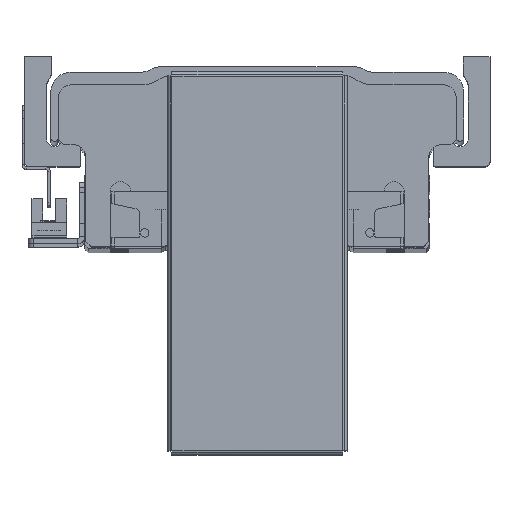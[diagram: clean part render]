
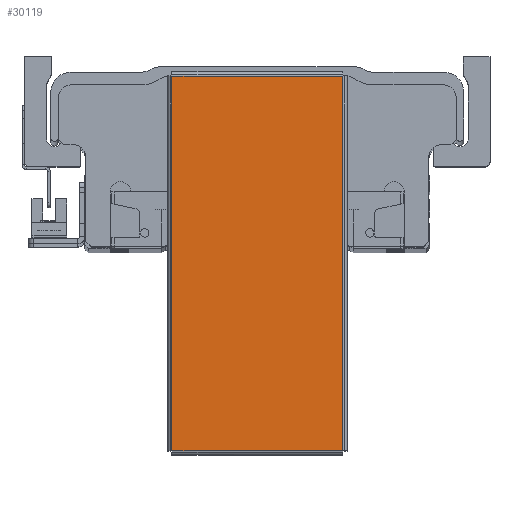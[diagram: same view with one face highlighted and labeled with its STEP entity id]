
A CAD part, top view. The second image highlights one B-rep face of the part: STEP entity #30119.
In plain terms, the highlighted planar face has unit normal (0, 0, 1) as drawn and (0, -1, 0) by its records, which use the part's own axes.
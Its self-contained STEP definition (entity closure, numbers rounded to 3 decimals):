
#6239 = AXIS2_PLACEMENT_3D ( 'NONE', #54619, #54575, #54582 ) ;
#8992 = CARTESIAN_POINT ( 'NONE',  ( -73.293, -1., -33.363 ) ) ;
#9018 = DIRECTION ( 'NONE',  ( 1., 0., 0. ) ) ;
#9058 = DIRECTION ( 'NONE',  ( 0., 0., -1. ) ) ;
#9062 = CARTESIAN_POINT ( 'NONE',  ( -73.263, -1., 33.393 ) ) ;
#9122 = DIRECTION ( 'NONE',  ( 0., 0., 1. ) ) ;
#9131 = CARTESIAN_POINT ( 'NONE',  ( 73.263, -1., -33.393 ) ) ;
#16495 = EDGE_LOOP ( 'NONE', ( #38230, #38345, #38335, #38231 ) ) ;
#22331 = CARTESIAN_POINT ( 'NONE',  ( 73.263, -1., 33.363 ) ) ;
#22332 = CARTESIAN_POINT ( 'NONE',  ( 73.263, -1., -33.363 ) ) ;
#22338 = CARTESIAN_POINT ( 'NONE',  ( -73.263, -1., 33.363 ) ) ;
#22389 = CARTESIAN_POINT ( 'NONE',  ( -73.263, -1., -33.363 ) ) ;
#30119 = ADVANCED_FACE ( 'NONE', ( #51431 ), #54611, .F. ) ;
#36847 = EDGE_CURVE ( 'NONE', #40674, #40644, #47935, .T. ) ;
#36910 = EDGE_CURVE ( 'NONE', #40702, #40678, #48034, .T. ) ;
#36923 = EDGE_CURVE ( 'NONE', #40644, #40702, #48185, .T. ) ;
#36952 = EDGE_CURVE ( 'NONE', #40678, #40674, #48263, .T. ) ;
#38230 = ORIENTED_EDGE ( 'NONE', *, *, #36847, .T. ) ;
#38231 = ORIENTED_EDGE ( 'NONE', *, *, #36952, .T. ) ;
#38335 = ORIENTED_EDGE ( 'NONE', *, *, #36910, .T. ) ;
#38345 = ORIENTED_EDGE ( 'NONE', *, *, #36923, .T. ) ;
#40644 = VERTEX_POINT ( 'NONE', #22338 ) ;
#40674 = VERTEX_POINT ( 'NONE', #22331 ) ;
#40678 = VERTEX_POINT ( 'NONE', #22332 ) ;
#40702 = VERTEX_POINT ( 'NONE', #22389 ) ;
#47910 = VECTOR ( 'NONE', #51090, 1000. ) ;
#47935 = LINE ( 'NONE', #51088, #47910 ) ;
#48034 = LINE ( 'NONE', #8992, #48037 ) ;
#48037 = VECTOR ( 'NONE', #9018, 1000. ) ;
#48185 = LINE ( 'NONE', #9062, #48228 ) ;
#48211 = VECTOR ( 'NONE', #9122, 1000. ) ;
#48228 = VECTOR ( 'NONE', #9058, 1000. ) ;
#48263 = LINE ( 'NONE', #9131, #48211 ) ;
#51088 = CARTESIAN_POINT ( 'NONE',  ( 73.293, -1., 33.363 ) ) ;
#51090 = DIRECTION ( 'NONE',  ( -1., 0., 0. ) ) ;
#51431 = FACE_OUTER_BOUND ( 'NONE', #16495, .T. ) ;
#54575 = DIRECTION ( 'NONE',  ( 0., 1., 0. ) ) ;
#54582 = DIRECTION ( 'NONE',  ( 0., 0., 1. ) ) ;
#54611 = PLANE ( 'NONE',  #6239 ) ;
#54619 = CARTESIAN_POINT ( 'NONE',  ( 0., -1., 0. ) ) ;
